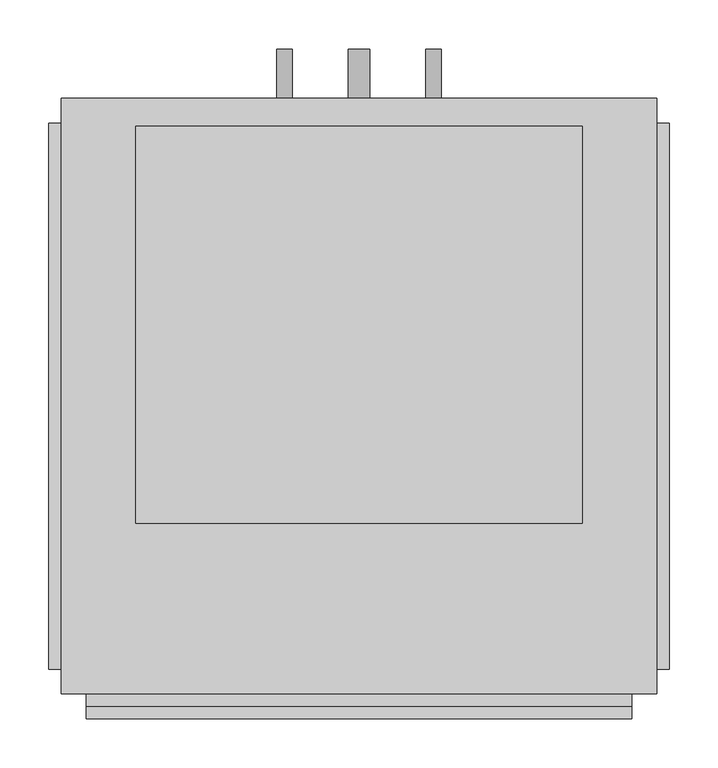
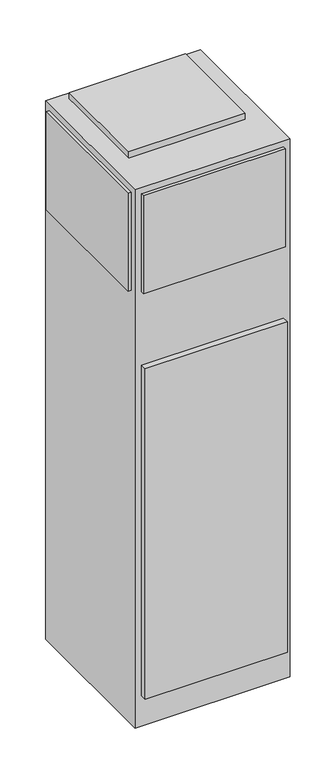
"""IFC4 building model written with IfcOpenShell, lengths in millimetres: proxy geometry, Concealed_Universal_Modular_Fan_Coil_Unit_-_42SUB_-_CARRIER_-_2-Pipe_Cool-EHeat_-_NoRisers_2022 : Size 10 - 277v/60Hz/1Ph - 4 Row 8.0kW."""

from ifc_helpers import new_model, si_unit, point, frame, frame_2d, origin, origin_with_axes, place, context, project, spatial, polyline, circle_curve, trimmed, segment, composite_curve, outline, extrude, source, transform, mapped, element, save


def mechanical_equipment_82ef6e23(model_context):
    return source(origin(), model_context, "Body", "SweptSolid", [
        extrude(outline(composite_curve([segment(trimmed(circle_curve(frame_2d((990.6, 533.4)), 7.9375), [point((990.6, 525.4625))], [point((990.6, 541.3375))], False, "CARTESIAN"), True, "CONTINUOUS"), segment(trimmed(circle_curve(frame_2d((990.6, 533.4)), 7.9375), [point((990.6, 541.3375))], [point((990.6, 525.4625))], False, "CARTESIAN"), True, "CONTINUOUS")], self_intersect=False)), frame((0.0, 244.475, 0.0), z_axis=(0.0, 1.0, 0.0), x_axis=(0.0, 0.0, 1.0)), (0.0, 0.0, 1.0), 50.8),
        extrude(outline(composite_curve([segment(trimmed(circle_curve(frame_2d((990.6, 381.0)), 7.9375), [point((990.6, 373.0625))], [point((990.6, 388.9375))], False, "CARTESIAN"), True, "CONTINUOUS"), segment(trimmed(circle_curve(frame_2d((990.6, 381.0)), 7.9375), [point((990.6, 388.9375))], [point((990.6, 373.0625))], False, "CARTESIAN"), True, "CONTINUOUS")], self_intersect=False)), frame((0.0, 244.475, 0.0), z_axis=(0.0, 1.0, 0.0), x_axis=(0.0, 0.0, 1.0)), (0.0, 0.0, 1.0), 50.8),
        extrude(outline(composite_curve([segment(trimmed(circle_curve(frame_2d((76.2, 457.2)), 11.1125), [point((76.2, 446.0875))], [point((76.2, 468.3125))], False, "CARTESIAN"), True, "CONTINUOUS"), segment(trimmed(circle_curve(frame_2d((76.2, 457.2)), 11.1125), [point((76.2, 468.3125))], [point((76.2, 446.0875))], False, "CARTESIAN"), True, "CONTINUOUS")], self_intersect=False)), frame((0.0, 244.475, 0.0), z_axis=(0.0, 1.0, 0.0), x_axis=(0.0, 0.0, 1.0)), (0.0, 0.0, 1.0), 50.8),
        extrude(outline(polyline([(685.8, 215.9), (685.8, -190.5), (228.6, -190.5), (228.6, 215.9), (685.8, 215.9)])), frame((0.0, 0.0, 2235.2), z_axis=(0.0, 0.0, 1.0), x_axis=(1.0, 0.0, 0.0)), (0.0, 0.0, 1.0), 25.4),
        extrude(outline(polyline([(139.7, -339.725), (139.7, 219.075), (152.4, 219.075), (152.4, -339.725), (139.7, -339.725)])), frame((0.0, 0.0, 1803.4), z_axis=(0.0, 0.0, 1.0), x_axis=(1.0, 0.0, 0.0)), (0.0, 0.0, 1.0), 406.4),
        extrude(outline(polyline([(774.7, 219.075), (774.7, -339.725), (762.0, -339.725), (762.0, 219.075), (774.7, 219.075)])), frame((0.0, 0.0, 1803.4), z_axis=(0.0, 0.0, 1.0), x_axis=(1.0, 0.0, 0.0)), (0.0, 0.0, 1.0), 406.4),
        extrude(outline(polyline([(736.6, -377.825), (177.8, -377.825), (177.8, -365.125), (736.6, -365.125), (736.6, -377.825)])), frame((0.0, 0.0, 1803.4), z_axis=(0.0, 0.0, 1.0), x_axis=(1.0, 0.0, 0.0)), (0.0, 0.0, 1.0), 406.4),
        extrude(outline(polyline([(736.6, -390.525), (177.8, -390.525), (177.8, -365.125), (736.6, -365.125), (736.6, -390.525)])), frame((0.0, 0.0, 127.0), z_axis=(0.0, 0.0, 1.0), x_axis=(1.0, 0.0, 0.0)), (0.0, 0.0, 1.0), 1371.6),
        extrude(outline(polyline([(762.0, 244.475), (762.0, -365.125), (152.4, -365.125), (152.4, 244.475), (762.0, 244.475)])), origin_with_axes(), (0.0, 0.0, 1.0), 2235.2),
    ])


if __name__ == "__main__":
    model = new_model("IFC4")
    model_context = context("Model", 3, world=origin())
    ifc_project = project(units=[si_unit("LENGTHUNIT", "METRE", prefix="MILLI")], contexts=[model_context])
    site = spatial("IfcSite", under=ifc_project)
    building = spatial("IfcBuilding", under=site)
    placement = place(None, origin())
    mechanical_equipment_shape = mechanical_equipment_82ef6e23(model_context)
    element("IfcBuildingElementProxy", 1, Name="Concealed_Universal_Modular_Fan_Coil_Unit_-_42SUB_-_CARRIER_-_2-Pipe_Cool-EHeat_-_NoRisers_2022 : Size 10 - 277v/60Hz/1Ph - 4 Row 8.0kW", ObjectType="Concealed_Universal_Modular_Fan_Coil_Unit_-_42SUB_-_CARRIER_-_2-Pipe_Cool-EHeat_-_NoRisers_2022 : Size 10 - 277v/60Hz/1Ph - 4 Row 8.0kW", at=placement, inside=building, context=model_context, shape_type="MappedRepresentation", body=[
        mapped(mechanical_equipment_shape, transform((0.0, 0.0, 0.0), x_axis=(1.0, 0.0, 0.0), y_axis=(0.0, 1.0, 0.0), z_axis=(0.0, 0.0, 1.0))),
    ])
    save(model, "model.ifc")
